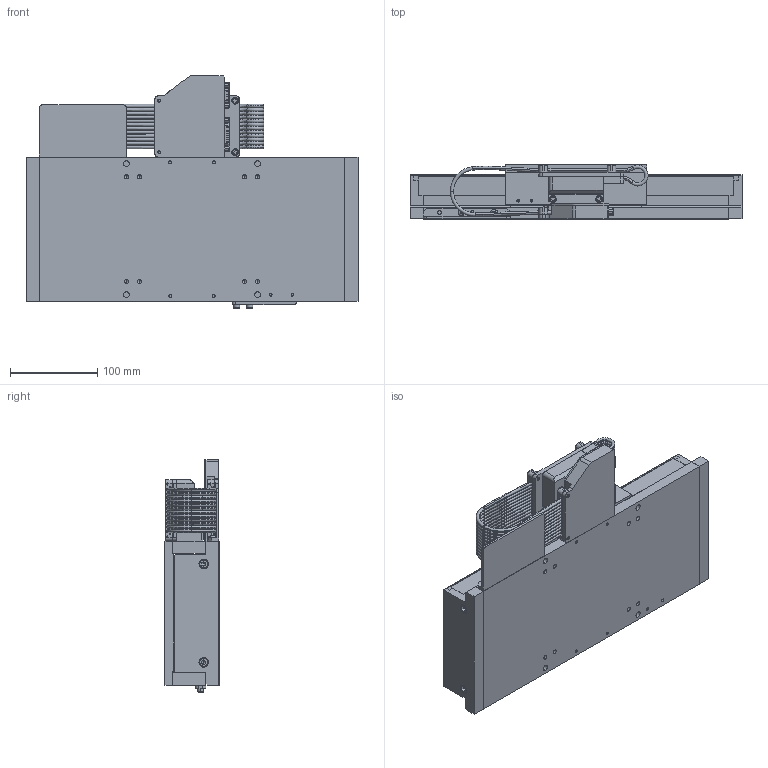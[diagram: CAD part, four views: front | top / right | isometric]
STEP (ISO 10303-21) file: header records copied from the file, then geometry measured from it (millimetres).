
FILE_DESCRIPTION (( 'STEP AP214' ), '1' );
FILE_NAME ('LM3-150-LM-EXPORT.STEP', '2024-05-06T20:24:40', ( 'lab' ), ( '' ), 'SwSTEP 2.0', 'SolidWorks 2018', '' );
FILE_SCHEMA (( 'AUTOMOTIVE_DESIGN' ));
Length unit declared in the file: millimetre
Products named in the file (19): 1000012_file_export9; 1000010_file_export14; 1000004_file_export35; 1000014_file_export12; 1000018_file_export30; 1000001_file_export38; LM3-150-LM-EXPORT; 1000002_file_export34; 1000015_file_export24; 1000007_file_export16; 1000003_file_export36; 1000005_file_export33; 1000006_file_export37; 1000016_file_export20; 1000008_file_export5; 1000011_file_export26; 1000009_file_export23; 1000017_file_export29; 1000013_file_export27
Assembly tree (39 placements, depth 2):
  LM3-150-LM-EXPORT
    1000007_file_export16  x4
    1000008_file_export5
    1000009_file_export23
    1000010_file_export14
    1000011_file_export26  x8
    1000012_file_export9
    1000013_file_export27  x2
    1000014_file_export12
    1000015_file_export24  x6
    1000016_file_export20  x3
    1000017_file_export29  x2
    1000018_file_export30
    1000003_file_export36  x2
    1000005_file_export33  x2
    1000004_file_export35
    1000002_file_export34
    1000001_file_export38
    1000006_file_export37
Bounding box: 380 x 62 x 266 mm (x, y, z)
Volume: 3502749.1 mm3; surface area: 517778 mm2
Topology: 95 solids, 95 shells, 2983 faces, 6833 edges, 4122 vertices
Faces by surface type: plane 1112, cylinder 816, bspline 448, cone 324, torus 283
Entity records: 109951 total; most frequent: CARTESIAN_POINT 47487, DIRECTION 11709, ORIENTED_EDGE 11242, EDGE_CURVE 5621, AXIS2_PLACEMENT_3D 4623, VERTEX_POINT 3451, EDGE_LOOP 2764, CIRCLE 2570
